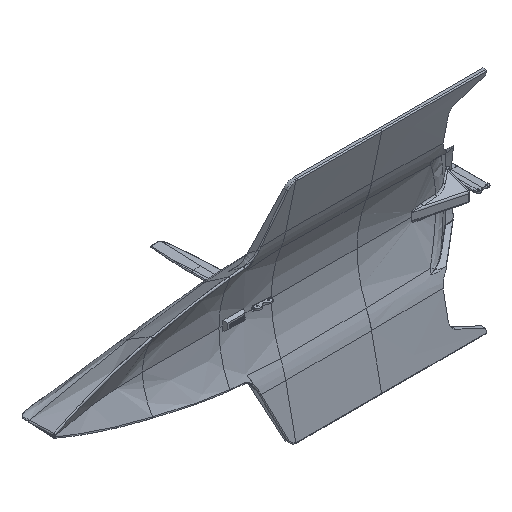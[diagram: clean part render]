
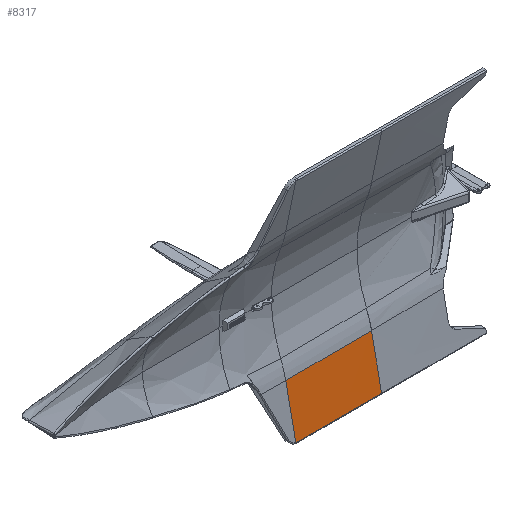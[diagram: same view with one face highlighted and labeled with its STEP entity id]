
A CAD part, isometric view. The second image highlights one B-rep face of the part: STEP entity #8317.
In plain terms, the highlighted free-form (B-spline) face has degree [3, 3] with [7, 4] control points.
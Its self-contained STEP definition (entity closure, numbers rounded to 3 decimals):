
#1865=CARTESIAN_POINT('',(400.,-127.179,-1186.411));
#1874=CARTESIAN_POINT('',(416.667,-127.502,
-1187.967));
#1875=CARTESIAN_POINT('',(413.865,-127.502,
-1187.967));
#1876=CARTESIAN_POINT('',(408.286,-127.448,
-1187.706));
#1877=CARTESIAN_POINT('',(402.754,-127.287,
-1186.93));
#1878=CARTESIAN_POINT('',(400.,-127.179,-1186.411));
#1880=DIRECTION('',(0.,0.203,0.979));
#1881=VECTOR('',#1880,521.668);
#1882=CARTESIAN_POINT('',(400.,-127.179,-1186.411));
#1883=LINE('',#1882,#1881);
#1884=CARTESIAN_POINT('',(400.,-21.142,-675.633));
#1885=CARTESIAN_POINT('',(495.445,-21.142,
-675.634));
#1886=CARTESIAN_POINT('',(689.317,-21.179,
-675.242));
#1887=CARTESIAN_POINT('',(989.254,-21.323,
-673.685));
#1888=CARTESIAN_POINT('',(1195.365,-21.461,
-672.178));
#1889=CARTESIAN_POINT('',(1300.,-21.535,-671.362));
#1891=CARTESIAN_POINT('',(1300.,-127.536,-1187.99));
#1892=CARTESIAN_POINT('',(1005.556,-127.536,
-1188.066));
#1893=CARTESIAN_POINT('',(711.111,-127.502,
-1187.965));
#1894=CARTESIAN_POINT('',(416.667,-127.502,
-1187.967));
#1972=DIRECTION('',(0.,0.201,0.98));
#1973=VECTOR('',#1972,527.391);
#1974=CARTESIAN_POINT('',(1300.,-127.536,-1187.99));
#1975=LINE('',#1974,#1973);
#1976=CARTESIAN_POINT('',(1300.,-21.535,-671.362));
#3414=VERTEX_POINT('',#1976);
#3417=VERTEX_POINT('',#1884);
#3498=VERTEX_POINT('',#1865);
#3500=VERTEX_POINT('',#1874);
#3502=VERTEX_POINT('',#1891);
#8277=CARTESIAN_POINT('',(382.,-128.599,
-1193.25));
#8278=CARTESIAN_POINT('',(694.,-128.599,
-1193.251));
#8279=CARTESIAN_POINT('',(1006.,-128.599,
-1193.213));
#8280=CARTESIAN_POINT('',(1318.,-128.599,
-1193.167));
#8281=CARTESIAN_POINT('',(382.,-118.232,
-1143.315));
#8282=CARTESIAN_POINT('',(694.001,-118.232,
-1143.328));
#8283=CARTESIAN_POINT('',(1006.,-118.232,
-1143.008));
#8284=CARTESIAN_POINT('',(1318.,-118.232,
-1142.625));
#8285=CARTESIAN_POINT('',(381.999,-97.033,
-1041.197));
#8286=CARTESIAN_POINT('',(694.016,-97.033,
-1041.233));
#8287=CARTESIAN_POINT('',(1005.995,-97.033,
-1040.336));
#8288=CARTESIAN_POINT('',(1318.,-97.033,
-1039.262));
#8289=CARTESIAN_POINT('',(381.995,-65.,-886.895));
#8290=CARTESIAN_POINT('',(694.082,-65.,-886.965));
#8291=CARTESIAN_POINT('',(1005.976,-65.,-885.197));
#8292=CARTESIAN_POINT('',(1318.001,-65.,-883.079));
#8293=CARTESIAN_POINT('',(381.99,-39.193,
-762.581));
#8294=CARTESIAN_POINT('',(694.17,-39.193,
-762.679));
#8295=CARTESIAN_POINT('',(1005.951,-39.193,
-760.209));
#8296=CARTESIAN_POINT('',(1318.003,-39.193,
-757.251));
#8297=CARTESIAN_POINT('',(381.986,-24.219,
-690.452));
#8298=CARTESIAN_POINT('',(694.236,-24.219,
-690.566));
#8299=CARTESIAN_POINT('',(1005.932,-24.219,
-687.689));
#8300=CARTESIAN_POINT('',(1318.004,-24.219,
-684.242));
#8301=CARTESIAN_POINT('',(381.985,-20.078,
-670.507));
#8302=CARTESIAN_POINT('',(694.255,-20.078,
-670.625));
#8303=CARTESIAN_POINT('',(1005.926,-20.078,
-667.636));
#8304=CARTESIAN_POINT('',(1318.004,-20.078,
-664.054));
#8305=B_SPLINE_SURFACE_WITH_KNOTS('',3,3,((#8277,#8278,#8279,#8280),(#8281,
#8282,#8283,#8284),(#8285,#8286,#8287,#8288),(#8289,#8290,#8291,#8292),(#8293,
#8294,#8295,#8296),(#8297,#8298,#8299,#8300),(#8301,#8302,#8303,#8304)),
.UNSPECIFIED.,.F.,.F.,.F.,(4,1,1,1,4),(4,4),(0.011,0.25,0.5,
0.75,0.846),(2382.,3318.),.UNSPECIFIED.);
#8307=ORIENTED_EDGE('',*,*,#8306,.T.);
#8308=ORIENTED_EDGE('',*,*,#8270,.T.);
#8310=ORIENTED_EDGE('',*,*,#8309,.T.);
#8312=ORIENTED_EDGE('',*,*,#8311,.F.);
#8314=ORIENTED_EDGE('',*,*,#8313,.T.);
#8315=EDGE_LOOP('',(#8307,#8308,#8310,#8312,#8314));
#8316=FACE_OUTER_BOUND('',#8315,.F.);
#8317=ADVANCED_FACE('',(#8316),#8305,.F.);
#1879=B_SPLINE_CURVE_WITH_KNOTS('',3,(#1874,#1875,#1876,#1877,#1878),
.UNSPECIFIED.,.F.,.F.,(4,1,4),(0.,0.5,1.),.UNSPECIFIED.);
#1890=B_SPLINE_CURVE_WITH_KNOTS('',3,(#1884,#1885,#1886,#1887,#1888,#1889),
.UNSPECIFIED.,.F.,.F.,(4,1,1,4),(0.,0.333,0.667,1.),
.UNSPECIFIED.);
#1895=B_SPLINE_CURVE_WITH_KNOTS('',3,(#1891,#1892,#1893,#1894),.UNSPECIFIED.,
.F.,.F.,(4,4),(0.,1.),.UNSPECIFIED.);
#8270=EDGE_CURVE('',#3498,#3417,#1883,.T.);
#8306=EDGE_CURVE('',#3500,#3498,#1879,.T.);
#8309=EDGE_CURVE('',#3417,#3414,#1890,.T.);
#8311=EDGE_CURVE('',#3502,#3414,#1975,.T.);
#8313=EDGE_CURVE('',#3502,#3500,#1895,.T.);
